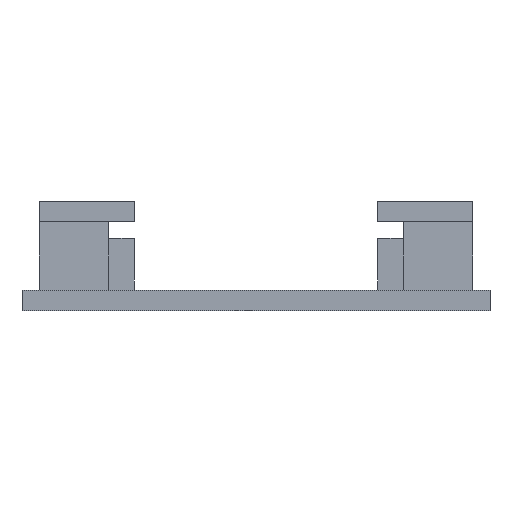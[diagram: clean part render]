
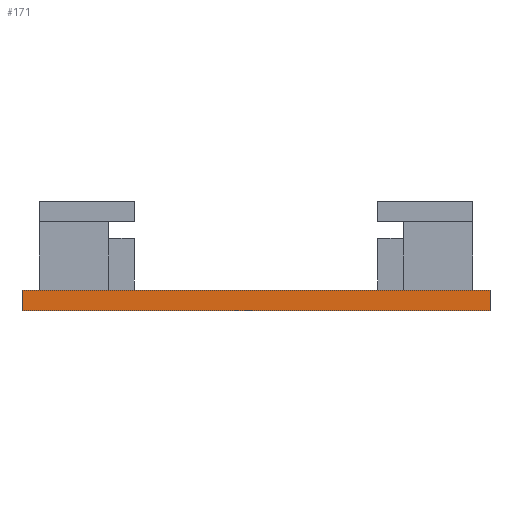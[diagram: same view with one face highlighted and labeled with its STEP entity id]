
A CAD part, front view. The second image highlights one B-rep face of the part: STEP entity #171.
In plain terms, the highlighted planar face has unit normal (0, -1, 0).
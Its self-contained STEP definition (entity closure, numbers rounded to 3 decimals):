
#55 = EDGE_CURVE('',#56,#58,#60,.T.);
#56 = VERTEX_POINT('',#57);
#57 = CARTESIAN_POINT('',(0.,0.,0.));
#58 = VERTEX_POINT('',#59);
#59 = CARTESIAN_POINT('',(0.,0.,2.4));
#60 = SURFACE_CURVE('',#61,(#65,#77),.PCURVE_S1.);
#61 = LINE('',#62,#63);
#62 = CARTESIAN_POINT('',(0.,0.,0.));
#63 = VECTOR('',#64,1.);
#64 = DIRECTION('',(0.,0.,1.));
#65 = PCURVE('',#66,#71);
#66 = PLANE('',#67);
#67 = AXIS2_PLACEMENT_3D('',#68,#69,#70);
#68 = CARTESIAN_POINT('',(0.,0.,0.));
#69 = DIRECTION('',(1.,0.,-0.));
#70 = DIRECTION('',(0.,0.,1.));
#71 = DEFINITIONAL_REPRESENTATION('',(#72),#76);
#72 = LINE('',#73,#74);
#73 = CARTESIAN_POINT('',(0.,0.));
#74 = VECTOR('',#75,1.);
#75 = DIRECTION('',(1.,0.));
#76 = ( GEOMETRIC_REPRESENTATION_CONTEXT(2) 
PARAMETRIC_REPRESENTATION_CONTEXT() REPRESENTATION_CONTEXT('2D SPACE',''
  ) );
#77 = PCURVE('',#78,#83);
#78 = PLANE('',#79);
#79 = AXIS2_PLACEMENT_3D('',#80,#81,#82);
#80 = CARTESIAN_POINT('',(0.,0.,0.));
#81 = DIRECTION('',(-0.,1.,0.));
#82 = DIRECTION('',(0.,0.,1.));
#83 = DEFINITIONAL_REPRESENTATION('',(#84),#88);
#84 = LINE('',#85,#86);
#85 = CARTESIAN_POINT('',(0.,0.));
#86 = VECTOR('',#87,1.);
#87 = DIRECTION('',(1.,0.));
#88 = ( GEOMETRIC_REPRESENTATION_CONTEXT(2) 
PARAMETRIC_REPRESENTATION_CONTEXT() REPRESENTATION_CONTEXT('2D SPACE',''
  ) );
#106 = PLANE('',#107);
#107 = AXIS2_PLACEMENT_3D('',#108,#109,#110);
#108 = CARTESIAN_POINT('',(0.,0.,0.));
#109 = DIRECTION('',(0.,0.,1.));
#110 = DIRECTION('',(1.,0.,-0.));
#160 = PLANE('',#161);
#161 = AXIS2_PLACEMENT_3D('',#162,#163,#164);
#162 = CARTESIAN_POINT('',(0.,0.,2.4));
#163 = DIRECTION('',(0.,0.,1.));
#164 = DIRECTION('',(1.,0.,-0.));
#171 = ADVANCED_FACE('',(#172),#78,.F.);
#172 = FACE_BOUND('',#173,.F.);
#173 = EDGE_LOOP('',(#174,#197,#198,#221));
#174 = ORIENTED_EDGE('',*,*,#175,.F.);
#175 = EDGE_CURVE('',#56,#176,#178,.T.);
#176 = VERTEX_POINT('',#177);
#177 = CARTESIAN_POINT('',(54.1,0.,0.));
#178 = SURFACE_CURVE('',#179,(#183,#190),.PCURVE_S1.);
#179 = LINE('',#180,#181);
#180 = CARTESIAN_POINT('',(0.,0.,0.));
#181 = VECTOR('',#182,1.);
#182 = DIRECTION('',(1.,0.,-0.));
#183 = PCURVE('',#78,#184);
#184 = DEFINITIONAL_REPRESENTATION('',(#185),#189);
#185 = LINE('',#186,#187);
#186 = CARTESIAN_POINT('',(0.,0.));
#187 = VECTOR('',#188,1.);
#188 = DIRECTION('',(0.,1.));
#189 = ( GEOMETRIC_REPRESENTATION_CONTEXT(2) 
PARAMETRIC_REPRESENTATION_CONTEXT() REPRESENTATION_CONTEXT('2D SPACE',''
  ) );
#190 = PCURVE('',#106,#191);
#191 = DEFINITIONAL_REPRESENTATION('',(#192),#196);
#192 = LINE('',#193,#194);
#193 = CARTESIAN_POINT('',(0.,0.));
#194 = VECTOR('',#195,1.);
#195 = DIRECTION('',(1.,0.));
#196 = ( GEOMETRIC_REPRESENTATION_CONTEXT(2) 
PARAMETRIC_REPRESENTATION_CONTEXT() REPRESENTATION_CONTEXT('2D SPACE',''
  ) );
#197 = ORIENTED_EDGE('',*,*,#55,.T.);
#198 = ORIENTED_EDGE('',*,*,#199,.T.);
#199 = EDGE_CURVE('',#58,#200,#202,.T.);
#200 = VERTEX_POINT('',#201);
#201 = CARTESIAN_POINT('',(54.1,0.,2.4));
#202 = SURFACE_CURVE('',#203,(#207,#214),.PCURVE_S1.);
#203 = LINE('',#204,#205);
#204 = CARTESIAN_POINT('',(0.,0.,2.4));
#205 = VECTOR('',#206,1.);
#206 = DIRECTION('',(1.,0.,-0.));
#207 = PCURVE('',#78,#208);
#208 = DEFINITIONAL_REPRESENTATION('',(#209),#213);
#209 = LINE('',#210,#211);
#210 = CARTESIAN_POINT('',(2.4,0.));
#211 = VECTOR('',#212,1.);
#212 = DIRECTION('',(0.,1.));
#213 = ( GEOMETRIC_REPRESENTATION_CONTEXT(2) 
PARAMETRIC_REPRESENTATION_CONTEXT() REPRESENTATION_CONTEXT('2D SPACE',''
  ) );
#214 = PCURVE('',#160,#215);
#215 = DEFINITIONAL_REPRESENTATION('',(#216),#220);
#216 = LINE('',#217,#218);
#217 = CARTESIAN_POINT('',(0.,0.));
#218 = VECTOR('',#219,1.);
#219 = DIRECTION('',(1.,0.));
#220 = ( GEOMETRIC_REPRESENTATION_CONTEXT(2) 
PARAMETRIC_REPRESENTATION_CONTEXT() REPRESENTATION_CONTEXT('2D SPACE',''
  ) );
#221 = ORIENTED_EDGE('',*,*,#222,.F.);
#222 = EDGE_CURVE('',#176,#200,#223,.T.);
#223 = SURFACE_CURVE('',#224,(#228,#235),.PCURVE_S1.);
#224 = LINE('',#225,#226);
#225 = CARTESIAN_POINT('',(54.1,0.,0.));
#226 = VECTOR('',#227,1.);
#227 = DIRECTION('',(0.,0.,1.));
#228 = PCURVE('',#78,#229);
#229 = DEFINITIONAL_REPRESENTATION('',(#230),#234);
#230 = LINE('',#231,#232);
#231 = CARTESIAN_POINT('',(0.,54.1));
#232 = VECTOR('',#233,1.);
#233 = DIRECTION('',(1.,0.));
#234 = ( GEOMETRIC_REPRESENTATION_CONTEXT(2) 
PARAMETRIC_REPRESENTATION_CONTEXT() REPRESENTATION_CONTEXT('2D SPACE',''
  ) );
#235 = PCURVE('',#236,#241);
#236 = PLANE('',#237);
#237 = AXIS2_PLACEMENT_3D('',#238,#239,#240);
#238 = CARTESIAN_POINT('',(54.1,0.,0.));
#239 = DIRECTION('',(1.,0.,-0.));
#240 = DIRECTION('',(0.,0.,1.));
#241 = DEFINITIONAL_REPRESENTATION('',(#242),#246);
#242 = LINE('',#243,#244);
#243 = CARTESIAN_POINT('',(0.,0.));
#244 = VECTOR('',#245,1.);
#245 = DIRECTION('',(1.,0.));
#246 = ( GEOMETRIC_REPRESENTATION_CONTEXT(2) 
PARAMETRIC_REPRESENTATION_CONTEXT() REPRESENTATION_CONTEXT('2D SPACE',''
  ) );
